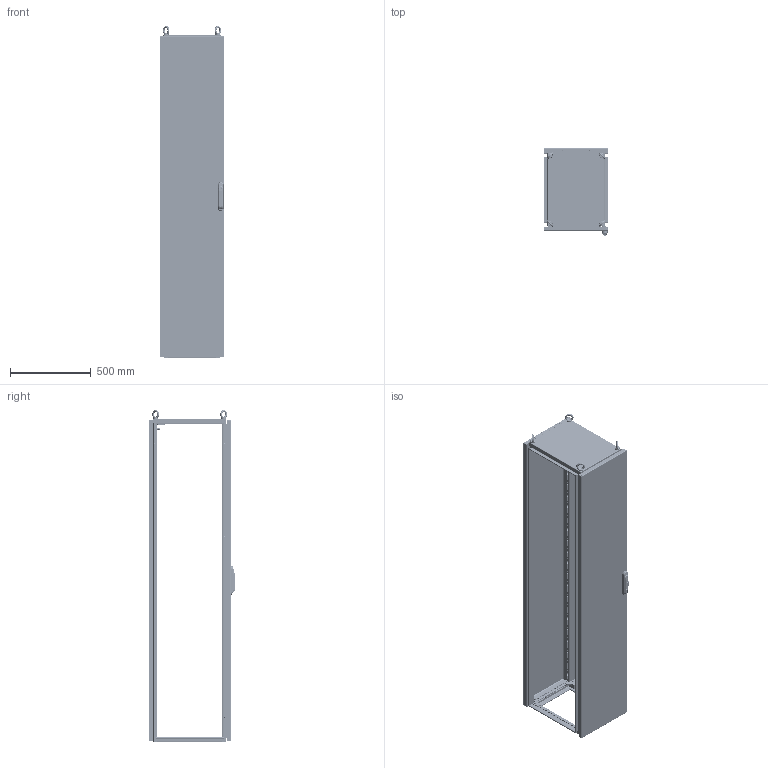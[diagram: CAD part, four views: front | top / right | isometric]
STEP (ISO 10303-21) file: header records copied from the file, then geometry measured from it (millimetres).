
FILE_DESCRIPTION(/* description */ (''),/* implementation_level */ '2;1');
FILE_NAME(/* name */ 'MCA04020050',/* time_stamp */ '2025-09-15T12:01:12+02:00',/* author */ ('INOXVENETA Spa'),/* organization */ ('www.inoxveneta.it '),/* preprocessor_version */ 'ST-DEVELOPER v19.4',/* originating_system */ 'Solid Edge',/* authorisation */ 'Unknown');
FILE_SCHEMA (('AUTOMOTIVE_DESIGN {1 0 10303 214 3 1 1}'));
Products named in the file (56): MCA04020050; F0000001.24; AE00198.03; M000X001.46; M0000000.14; AE00500.10; M000X001.47; M0000001.25; M0000000.44; M0000000.06; AE00219.03; AE00715.01; M000X001.48; M0000001.26; F0000000.18; F000X003.76; F000X003.77; F0000002.44; F0000000.07; AE00100.03_oa_0; AE00100.03_oa_1; AE00100.03_oa_2; AE00100.03_oa_3; F000X000.14; M0000000.37; AE00701.03; F0000000.13; F000X003.78; F000X003.80; F0000002.51; F0000000.12; AE00222.15; AE00316.01; AE00992.10_oa_4; AE00992.31; AE00315.01; R1000002.14; AE00992.18; AE00992.16; AE00636.02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
Assembly tree (212 placements, depth 4):
  MCA04020050
    F0000001.24  x4
    AE00198.03  x16
    M000X001.46
      M0000000.14  x4
      AE00500.10  x48
      M000X001.47  x2
        M0000001.25
        M0000000.44
        M0000000.06
    AE00219.03  x8
    AE00715.01  x4
    M000X001.48
      M0000001.26
    F0000000.18
    F000X003.76
      F000X003.77
        F0000002.44
      F0000000.07  x2
      AE00100.03_oa_0
      AE00100.03_oa_1
      AE00100.03_oa_2
      AE00100.03_oa_3
    F000X000.14
    M0000000.37  x8
    AE00701.03  x4
    F0000000.13  x4
    F000X003.78
      F000X003.80
        F0000002.51
      F0000000.12  x8
      AE00222.15  x8
      AE00316.01  x8
      AE00992.10_oa_4
      AE00992.31
      AE00315.01  x4
      R1000002.14  x2
      AE00992.18  x4
      AE00992.16
      AE00636.02  x8
      AE00409.01  x4
      AE00417.01  x2
    F0000000.08  x4
    M000X000.49_oa_5
      M0000000.56
      M0000000.57
      M000X000.50_oa_6
        M0000000.58
        AE00217.25
        AE00309.01
      AE00368.00  x8
      AE00224.00  x2
      AE00219.00  x8
      M000X000.51_oa_7
        M0000000.59
        AE00217.25
        AE00309.01
    C0000000.08
Bounding box: 400 x 538.2 x 2056.95 mm (x, y, z)
Volume: 7662304.9 mm3; surface area: 9801293.7 mm2
Topology: 221 solids, 221 shells, 12242 faces, 33244 edges, 21503 vertices
Faces by surface type: plane 7867, cylinder 2935, cone 626, torus 446, bspline 218, sphere 150
Full cylindrical faces by diameter (mm): 1.231 x4, 2 x4, 3 x1, 3.242 x2, 4 x12, 4.134 x5, 4.25 x4, 4.5 x832, 4.917 x73, 4.918 x8, 5 x6, 6 x66, 6.1 x20, 6.2 x8, 6.5 x28, 6.647 x6, 7.5 x2, 8 x4, 8.3 x8, 8.5 x2, 9 x48, 10 x2, 10.106 x8, 10.5 x20, 11.8 x8, 12 x20, 13 x4, 14 x1, 16 x1, 17 x3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
Entity records: 110092 total; most frequent: CARTESIAN_POINT 25256, DIRECTION 16210, ORIENTED_EDGE 16076, EDGE_CURVE 8038, LINE 5816, VECTOR 5816, VERTEX_POINT 5401, AXIS2_PLACEMENT_3D 5197
